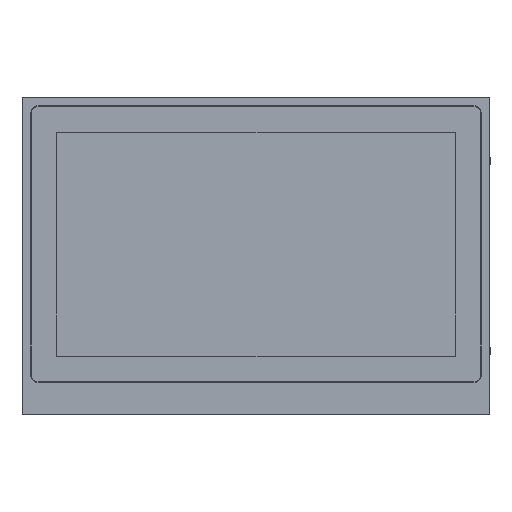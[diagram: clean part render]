
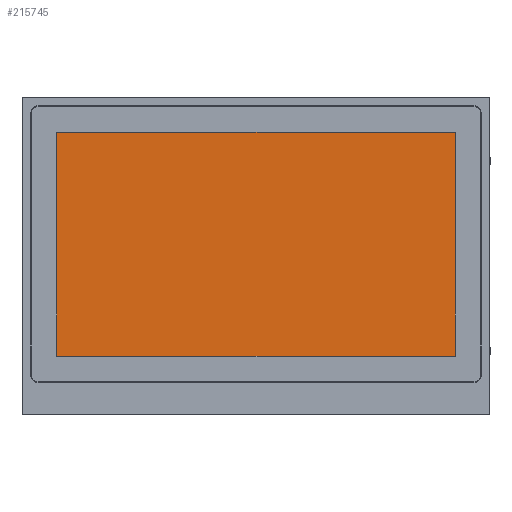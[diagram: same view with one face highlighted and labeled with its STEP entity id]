
A CAD part, top view. The second image highlights one B-rep face of the part: STEP entity #215745.
In plain terms, the highlighted planar face has unit normal (0, 0, 1).
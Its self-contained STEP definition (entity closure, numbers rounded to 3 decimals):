
#18281=FACE_OUTER_BOUND('',#29908,.T.);
#29908=EDGE_LOOP('',(#178899,#178900,#178901,#178902));
#53622=LINE('',#373831,#75154);
#53626=LINE('',#373839,#75158);
#53629=LINE('',#373845,#75161);
#53632=LINE('',#373850,#75164);
#75154=VECTOR('',#273197,10.);
#75158=VECTOR('',#273203,10.);
#75161=VECTOR('',#273208,10.);
#75164=VECTOR('',#273213,10.);
#95422=VERTEX_POINT('',#373829);
#95423=VERTEX_POINT('',#373830);
#95426=VERTEX_POINT('',#373838);
#95428=VERTEX_POINT('',#373844);
#124037=EDGE_CURVE('',#95422,#95423,#53622,.T.);
#124041=EDGE_CURVE('',#95423,#95426,#53626,.T.);
#124044=EDGE_CURVE('',#95426,#95428,#53629,.T.);
#124047=EDGE_CURVE('',#95428,#95422,#53632,.T.);
#178899=ORIENTED_EDGE('',*,*,#124037,.T.);
#178900=ORIENTED_EDGE('',*,*,#124041,.T.);
#178901=ORIENTED_EDGE('',*,*,#124044,.T.);
#178902=ORIENTED_EDGE('',*,*,#124047,.T.);
#195398=PLANE('',#229394);
#215745=ADVANCED_FACE('',(#18281),#195398,.T.);
#229394=AXIS2_PLACEMENT_3D('',#373852,#273215,#273216);
#273197=DIRECTION('',(0.,-1.,0.));
#273203=DIRECTION('',(1.,0.,0.));
#273208=DIRECTION('',(0.,1.,0.));
#273213=DIRECTION('',(-1.,0.,0.));
#273215=DIRECTION('center_axis',(0.,0.,
1.));
#273216=DIRECTION('ref_axis',(1.,0.,0.));
#373829=CARTESIAN_POINT('',(-238.4,148.25,6.19));
#373830=CARTESIAN_POINT('',(-238.4,-120.05,6.19));
#373831=CARTESIAN_POINT('',(-238.4,-120.05,6.19));
#373838=CARTESIAN_POINT('',(238.4,-120.05,6.19));
#373839=CARTESIAN_POINT('',(238.4,-120.05,6.19));
#373844=CARTESIAN_POINT('',(238.4,148.25,6.19));
#373845=CARTESIAN_POINT('',(238.4,148.25,6.19));
#373850=CARTESIAN_POINT('',(-238.4,148.25,6.19));
#373852=CARTESIAN_POINT('Origin',(0.,14.1,
6.19));
